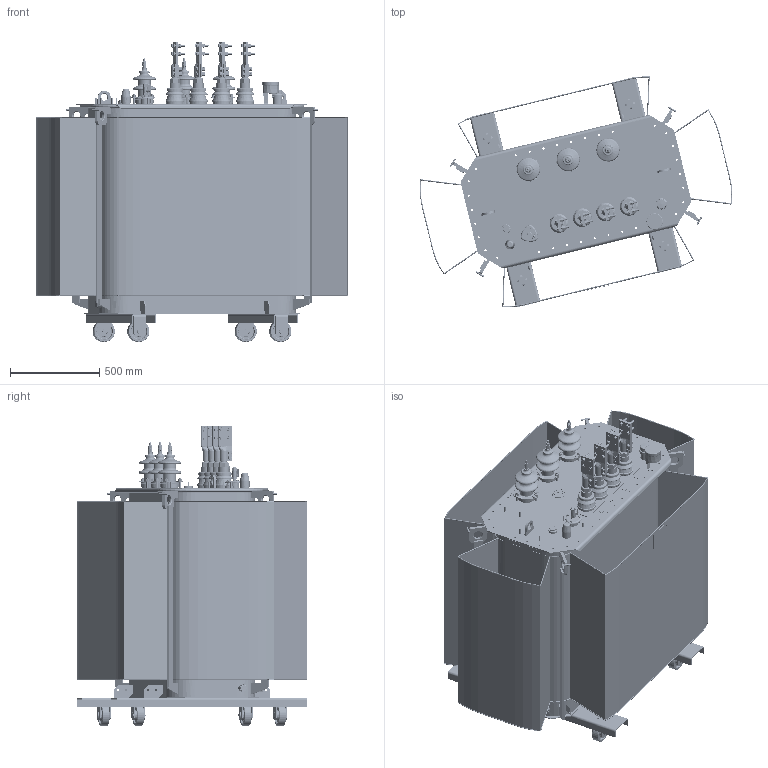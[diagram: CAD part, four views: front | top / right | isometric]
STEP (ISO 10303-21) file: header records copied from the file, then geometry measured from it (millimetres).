
FILE_DESCRIPTION(/* description */ (''),/* implementation_level */ '2;1');
FILE_NAME(/* name */ 'D:\SEARCHWORK\Готовые\Готовые ТМГ\ТМГ31-1000-10 модификация бака\Result\TMG_1000_10.stp',/* time_stamp */ '2020-07-21T13:44:46+03:00',/* author */ ('55505'),/* organization */ (''),/* preprocessor_version */ 'ST-DEVELOPER v15.2',/* originating_system */ 'Autodesk Inventor 2014',/* authorisation */ '');
FILE_SCHEMA (('AUTOMOTIVE_DESIGN { 1 0 10303 214 3 1 1 }'));
Products named in the file (1): Mod1000Part
Bounding box: 1753.8 x 1295.98 x 1683 mm (x, y, z)
Volume: 32458898.8 mm3; surface area: 20563872.8 mm2
Topology: 11 solids, 62 shells, 9372 faces, 23415 edges, 14433 vertices
Faces by surface type: plane 4005, cylinder 2532, bspline 1283, torus 973, cone 518, sphere 61
Full cylindrical faces by diameter (mm): 1.6 x3, 3 x4, 3.8 x4, 3.96 x3, 4 x6, 4.3 x2, 4.917 x2, 5 x8, 5.3 x5, 5.5 x5, 5.94 x1, 6 x29, 7 x9, 7.159 x1, 7.92 x3, 8 x9, 8.4 x3, 9 x10, 10 x22, 10.7 x3, 11 x1, 11.88 x24, 12 x178, 12.5 x3, 13 x61, 14 x17, 14.1 x1, 14.2 x1, 15 x3, 17 x4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
Entity records: 327619 total; most frequent: CARTESIAN_POINT 111651, ORIENTED_EDGE 43160, DIRECTION 40178, EDGE_CURVE 21548, AXIS2_PLACEMENT_3D 15359, VERTEX_POINT 14142, EDGE_LOOP 11819, LINE 9460
